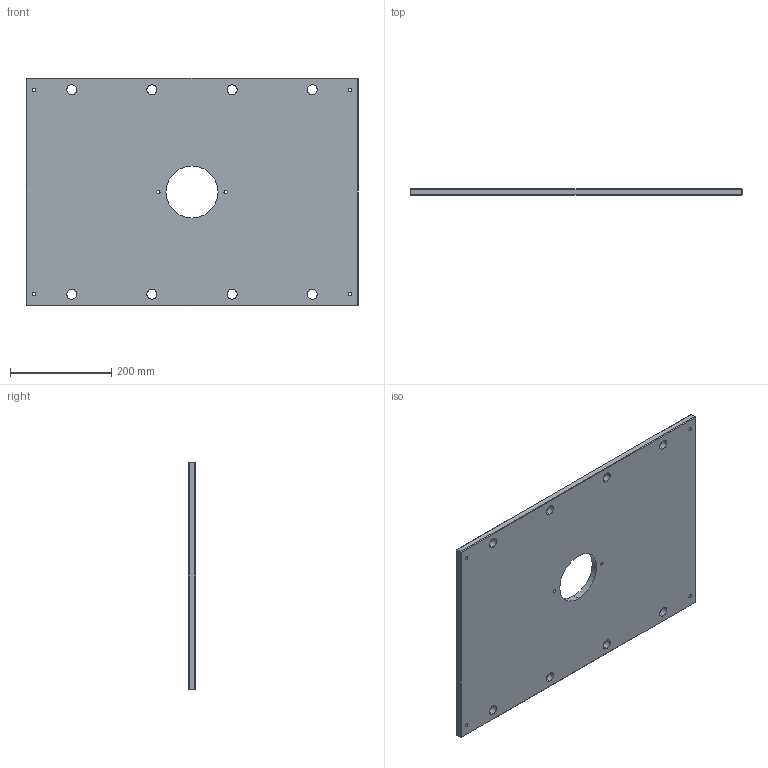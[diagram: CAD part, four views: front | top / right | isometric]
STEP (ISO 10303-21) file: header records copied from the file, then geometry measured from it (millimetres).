
FILE_DESCRIPTION (( 'STEP AP214' ), '1' );
FILE_NAME ('ME-0619-CH-1826.STEP', '2020-02-13T09:51:31', ( '' ), ( '' ), 'SwSTEP 2.0', 'SolidWorks 2018', '' );
FILE_SCHEMA (( 'AUTOMOTIVE_DESIGN' ));
Length unit declared in the file: inch
Products named in the file (1): ME-0619-CH-1826
Bounding box: 657.23 x 12.7 x 450.85 mm (x, y, z)
Volume: 3617883.2 mm3; surface area: 607247.2 mm2
Topology: 1 solids, 1 shells, 68 faces, 162 edges, 96 vertices
Faces by surface type: cylinder 30, plane 26, cone 12
Entity records: 2050 total; most frequent: DIRECTION 372, CARTESIAN_POINT 327, ORIENTED_EDGE 324, EDGE_CURVE 162, AXIS2_PLACEMENT_3D 141, EDGE_LOOP 98, VERTEX_POINT 96, VECTOR 90
